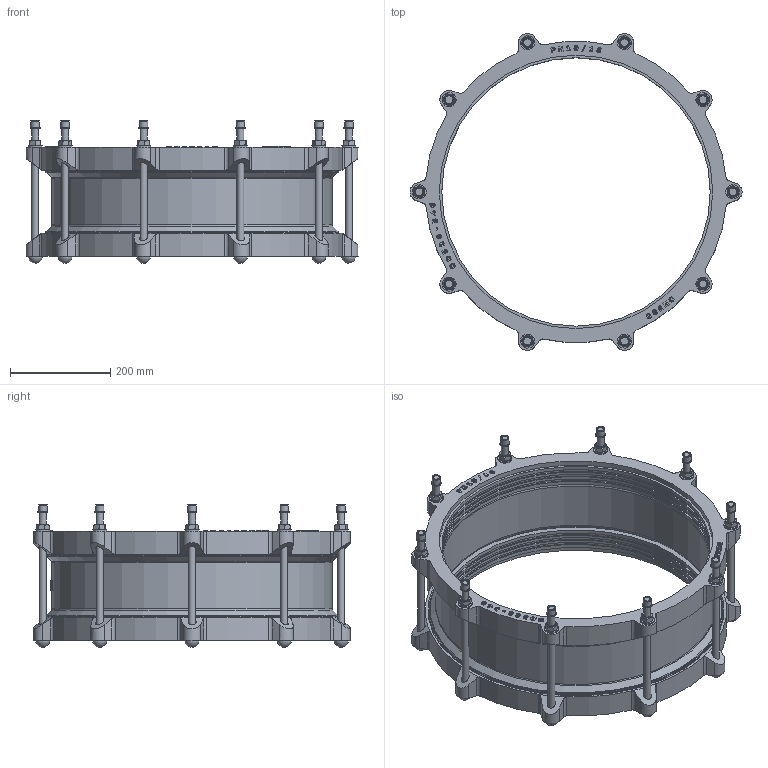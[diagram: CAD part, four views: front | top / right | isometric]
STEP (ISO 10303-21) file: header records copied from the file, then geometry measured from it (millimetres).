
FILE_DESCRIPTION(('STEP AP203'), '1');
FILE_NAME('Cîåäèíèòåëüíàÿ ìóôòà äëÿ æåñòêèõ òðóá', '', ('UNSPECIFIED'), ('UNSPECIFIED'), 'C3D Converter', 'C3D Toolkit', '');
FILE_SCHEMA(('CONFIG_CONTROL_DESIGN'));
Length unit declared in the file: millimetre
Assembly tree (45 placements, depth 2):
  (unnamed)
    (unnamed)
    (unnamed)  x10
    (unnamed)  x10
    (unnamed)  x10
    (unnamed)  x10
    (unnamed)
    (unnamed)
    (unnamed)  x2
Bounding box: 663 x 632.31 x 285.4 mm (x, y, z)
Volume: 8164965.2 mm3; surface area: 1866614.8 mm2
Topology: 49 solids, 49 shells, 1101 faces, 2695 edges, 1762 vertices
Faces by surface type: plane 410, extrusion 370, cylinder 207, cone 76, torus 28, sphere 10
Full cylindrical faces by diameter (mm): 14 x30, 15 x10, 16 x20, 16.8 x10, 19.6 x10, 25.619 x1, 28 x10, 536 x8, 541 x6, 546 x3, 553 x2, 560 x3, 584.5 x2, 588 x4
Entity records: 39926 total; most frequent: CARTESIAN_POINT 15678, ORIENTED_EDGE 4162, DIRECTION 2769, EDGE_CURVE 2081, VERTEX_POINT 1416, VECTOR 1299, B_SPLINE_CURVE_WITH_KNOTS 1244, EDGE_LOOP 995
